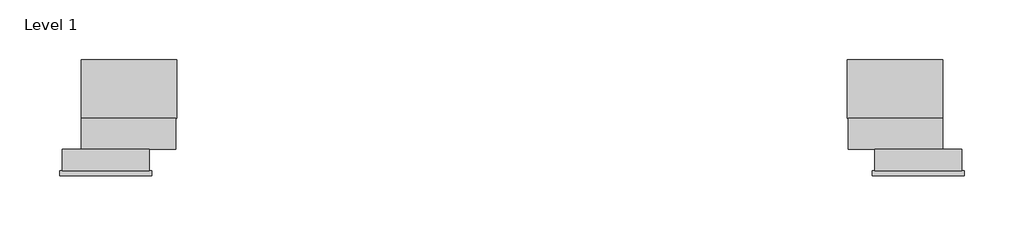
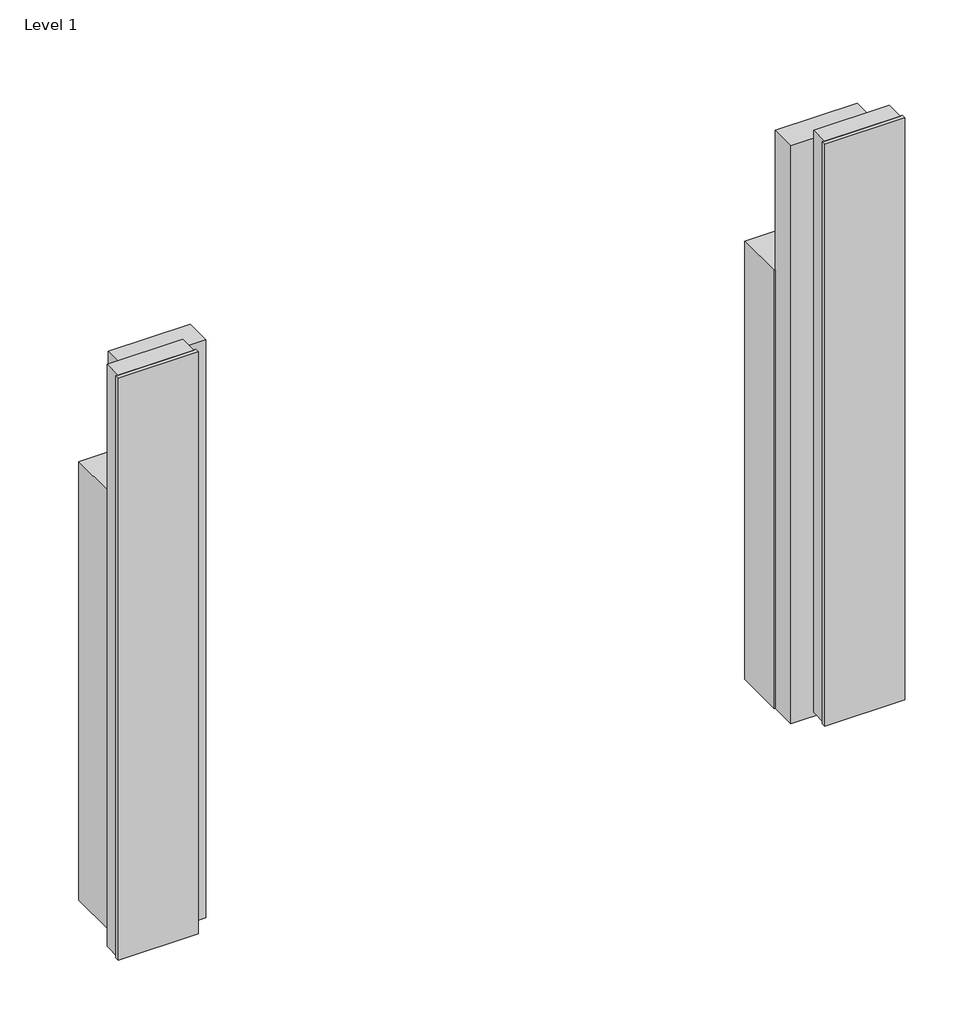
# One storey: 1 proxy.
"""IFC4 building model written with IfcOpenShell, lengths in millimetres."""

from ifc_helpers import new_model, si_unit, origin, place, context, project, spatial, transform, mapped, element, save
from components import specialty_equipment_5cff2327

model = new_model("IFC4")

# Units and contexts
model_context = context("Model", 3, world=origin())
ifc_project = project(units=[si_unit("LENGTHUNIT", "METRE", prefix="MILLI")], contexts=[model_context])

# Site, building, storey
site = spatial("IfcSite", under=ifc_project)
building = spatial("IfcBuilding", under=site)
storey = spatial("IfcBuildingStorey", under=building, Name="Level 1", Elevation=0.0)

# Proxy
placement = place(None, origin())
specialty_equipment_shape = specialty_equipment_5cff2327(model_context)
element("IfcBuildingElementProxy", 1, Name="11515800_USA_EBA7868_OBSW : 29992966_USA_11515800_EBA7868_OBSW", ObjectType="11515800_USA_EBA7868_OBSW : 29992966_USA_11515800_EBA7868_OBSW", at=placement, inside=storey, context=model_context, shape_type="MappedRepresentation", body=[
    mapped(specialty_equipment_shape, transform((0.0, 0.0, 0.0), x_axis=(1.0, 0.0, 0.0), y_axis=(0.0, 1.0, 0.0), z_axis=(0.0, 0.0, 1.0))),
])

save(model, "model.ifc")
